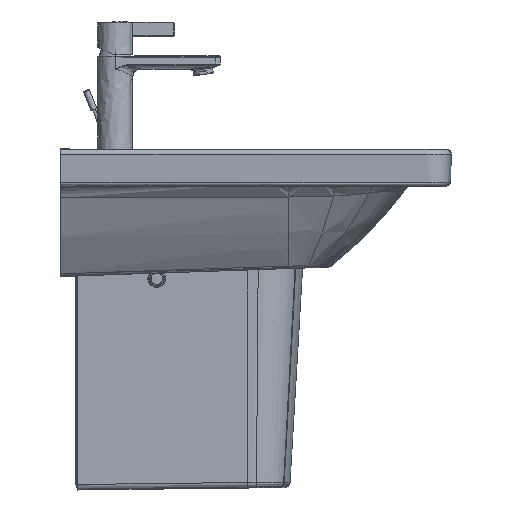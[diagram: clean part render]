
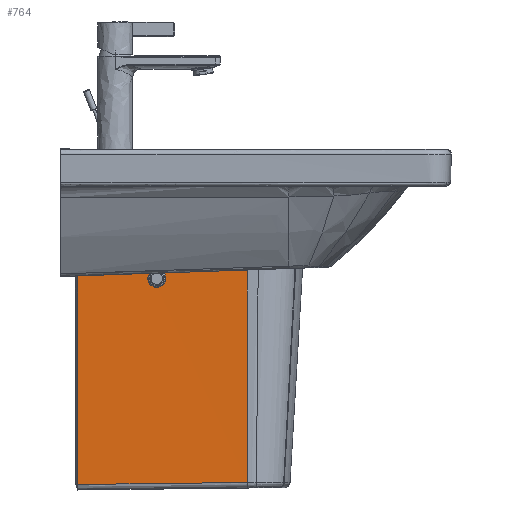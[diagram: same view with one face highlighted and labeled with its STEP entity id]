
A CAD part, left-side view. The second image highlights one B-rep face of the part: STEP entity #764.
In plain terms, the highlighted free-form (B-spline) face has degree [1, 5] with [2, 6] control points.
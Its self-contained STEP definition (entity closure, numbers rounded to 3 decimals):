
#95=FACE_BOUND('',#2202,.T.);
#764=ADVANCED_FACE('',(#1460,#95),#10732,.T.);
#1460=FACE_OUTER_BOUND('',#2201,.T.);
#2201=EDGE_LOOP('',(#5486,#5487,#5488,#5489));
#2202=EDGE_LOOP('',(#5490,#5491));
#5486=ORIENTED_EDGE('',*,*,#7256,.T.);
#5487=ORIENTED_EDGE('',*,*,#7205,.F.);
#5488=ORIENTED_EDGE('',*,*,#7254,.F.);
#5489=ORIENTED_EDGE('',*,*,#7279,.T.);
#5490=ORIENTED_EDGE('',*,*,#7258,.T.);
#5491=ORIENTED_EDGE('',*,*,#7257,.T.);
#7205=EDGE_CURVE('',#10008,#10009,#8911,.T.);
#7254=EDGE_CURVE('',#10043,#10008,#8957,.T.);
#7256=EDGE_CURVE('',#10044,#10009,#8959,.T.);
#7257=EDGE_CURVE('',#10045,#10046,#8960,.T.);
#7258=EDGE_CURVE('',#10046,#10045,#8961,.T.);
#7279=EDGE_CURVE('',#10043,#10044,#8982,.T.);
#8911=B_SPLINE_CURVE_WITH_KNOTS('',1,(#94173,#94174),.UNSPECIFIED.,.F.,
 .F.,(2,2),(0.,208.052),.UNSPECIFIED.);
#8957=B_SPLINE_CURVE_WITH_KNOTS('',5,(#94562,#94563,#94564,#94565,#94566,
#94567,#94568,#94569,#94570),.UNSPECIFIED.,.F.,.F.,(6,3,6),(-365.293,
-227.204,-82.052),.UNSPECIFIED.);
#8959=B_SPLINE_CURVE_WITH_KNOTS('',1,(#94575,#94576),.UNSPECIFIED.,.F.,
 .F.,(2,2),(9.282,290.099),.UNSPECIFIED.);
#8960=B_SPLINE_CURVE_WITH_KNOTS('',3,(#94577,#94578,#94579,#94580,#94581,
#94582,#94583,#94584,#94585,#94586),.UNSPECIFIED.,.F.,.F.,(4,2,2,2,4),(0.,
11.111,22.224,33.333,44.437),
 .UNSPECIFIED.);
#8961=B_SPLINE_CURVE_WITH_KNOTS('',3,(#94587,#94588,#94589,#94590,#94591,
#94592,#94593,#94594,#94595,#94596),.UNSPECIFIED.,.F.,.F.,(4,2,2,2,4),(0.,
11.11,22.223,33.332,44.437),
 .UNSPECIFIED.);
#8982=B_SPLINE_CURVE_WITH_KNOTS('',4,(#94728,#94729,#94730,#94731,#94732),
 .UNSPECIFIED.,.F.,.F.,(5,5),(-104.033,104.033),
 .UNSPECIFIED.);
#10008=VERTEX_POINT('',#93932);
#10009=VERTEX_POINT('',#93933);
#10043=VERTEX_POINT('',#93967);
#10044=VERTEX_POINT('',#93968);
#10045=VERTEX_POINT('',#93969);
#10046=VERTEX_POINT('',#93970);
#10732=B_SPLINE_SURFACE_WITH_KNOTS('',1,5,((#91978,#91979,#91980,#91981,
#91982,#91983),(#91984,#91985,#91986,#91987,#91988,#91989)),
 .UNSPECIFIED.,.F.,.F.,.F.,(2,2),(6,6),(0.,290.099),(0.,211.052),
 .UNSPECIFIED.);
#91978=CARTESIAN_POINT('',(-152.198,85.762,-335.476));
#91979=CARTESIAN_POINT('',(-152.698,127.97,-335.476));
#91980=CARTESIAN_POINT('',(-153.198,170.177,-335.476));
#91981=CARTESIAN_POINT('',(-153.698,212.385,-335.476));
#91982=CARTESIAN_POINT('',(-154.198,254.592,-335.476));
#91983=CARTESIAN_POINT('',(-154.698,296.8,-335.476));
#91984=CARTESIAN_POINT('',(-159.847,85.672,-45.476));
#91985=CARTESIAN_POINT('',(-160.317,127.88,-45.476));
#91986=CARTESIAN_POINT('',(-160.787,170.088,-45.476));
#91987=CARTESIAN_POINT('',(-161.257,212.295,-45.476));
#91988=CARTESIAN_POINT('',(-161.727,254.503,-45.476));
#91989=CARTESIAN_POINT('',(-162.197,296.711,-45.476));
#93932=CARTESIAN_POINT('',(-162.164,293.711,-45.476));
#93933=CARTESIAN_POINT('',(-159.847,85.672,-45.476));
#93967=CARTESIAN_POINT('',(-154.84,293.798,-328.623));
#93968=CARTESIAN_POINT('',(-152.443,85.76,-326.197));
#93969=CARTESIAN_POINT('',(-160.189,186.8,-75.476));
#93970=CARTESIAN_POINT('',(-160.413,206.8,-75.476));
#94173=CARTESIAN_POINT('',(-162.164,293.711,-45.476));
#94174=CARTESIAN_POINT('',(-159.847,85.672,-45.476));
#94562=CARTESIAN_POINT('',(-154.84,293.798,-328.623));
#94563=CARTESIAN_POINT('',(-155.554,293.79,-301.014));
#94564=CARTESIAN_POINT('',(-156.268,293.781,-273.405));
#94565=CARTESIAN_POINT('',(-156.982,293.773,-245.797));
#94566=CARTESIAN_POINT('',(-158.447,293.755,-189.167));
#94567=CARTESIAN_POINT('',(-159.912,293.738,-132.538));
#94568=CARTESIAN_POINT('',(-160.662,293.729,-103.517));
#94569=CARTESIAN_POINT('',(-161.413,293.72,-74.497));
#94570=CARTESIAN_POINT('',(-162.164,293.711,-45.476));
#94575=CARTESIAN_POINT('',(-152.443,85.76,-326.197));
#94576=CARTESIAN_POINT('',(-159.847,85.672,-45.476));
#94577=CARTESIAN_POINT('',(-160.189,186.8,-75.476));
#94578=CARTESIAN_POINT('',(-160.12,186.8,-78.128));
#94579=CARTESIAN_POINT('',(-160.065,187.853,-80.672));
#94580=CARTESIAN_POINT('',(-160.01,191.604,-84.423));
#94581=CARTESIAN_POINT('',(-160.011,194.15,-85.476));
#94582=CARTESIAN_POINT('',(-160.07,199.449,-85.476));
#94583=CARTESIAN_POINT('',(-160.126,201.998,-84.42));
#94584=CARTESIAN_POINT('',(-160.266,205.743,-80.675));
#94585=CARTESIAN_POINT('',(-160.344,206.8,-78.127));
#94586=CARTESIAN_POINT('',(-160.413,206.8,-75.476));
#94587=CARTESIAN_POINT('',(-160.413,206.8,-75.476));
#94588=CARTESIAN_POINT('',(-160.483,206.8,-72.824));
#94589=CARTESIAN_POINT('',(-160.537,205.747,-70.281));
#94590=CARTESIAN_POINT('',(-160.593,201.995,-66.529));
#94591=CARTESIAN_POINT('',(-160.592,199.45,-65.476));
#94592=CARTESIAN_POINT('',(-160.533,194.15,-65.476));
#94593=CARTESIAN_POINT('',(-160.477,191.602,-66.532));
#94594=CARTESIAN_POINT('',(-160.337,187.857,-70.277));
#94595=CARTESIAN_POINT('',(-160.259,186.8,-72.825));
#94596=CARTESIAN_POINT('',(-160.189,186.8,-75.476));
#94728=CARTESIAN_POINT('',(-154.84,293.798,-328.623));
#94729=CARTESIAN_POINT('',(-154.24,241.788,-328.016));
#94730=CARTESIAN_POINT('',(-153.641,189.779,-327.41));
#94731=CARTESIAN_POINT('',(-153.042,137.769,-326.803));
#94732=CARTESIAN_POINT('',(-152.443,85.76,-326.197));
